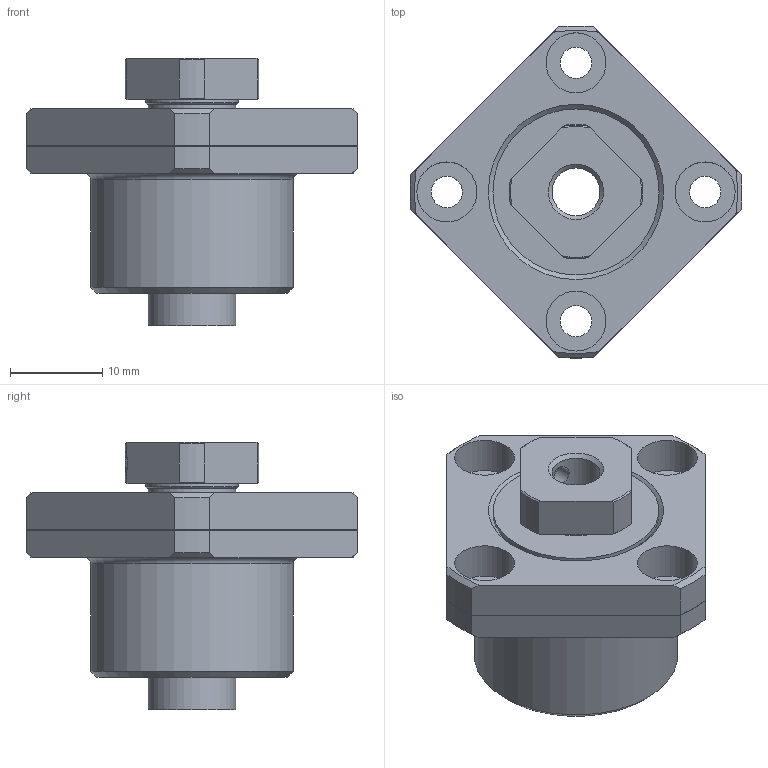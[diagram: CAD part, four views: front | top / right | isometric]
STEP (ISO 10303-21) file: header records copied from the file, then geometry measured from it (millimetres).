
FILE_DESCRIPTION(/* description */ ('STEP AP214'),/* implementation_level */ '2;1');
FILE_NAME(/* name */ 'FK6______CAD_NO_Yes-FS',/* time_stamp */ '2026-09-17T13:18:51+02:00',/* author */ ('License CC BY-ND 4.0'),/* organization */ ('CADENAS'),/* preprocessor_version */ 'ST-DEVELOPER v20',/* originating_system */ 'PARTsolutions',/* authorisation */ ' ');
FILE_SCHEMA (('AUTOMOTIVE_DESIGN {1 0 10303 214 3 1 1}'));
Length unit declared in the file: millimetre
Products named in the file (4): FK6______CAD_NO_Yes-FS; FK 6-FS-1; FK 6collar; RN 6
Assembly tree (4 placements, depth 2):
  FK6______CAD_NO_Yes-FS
    FK 6-FS-1
    FK 6collar  x2
    RN 6
Bounding box: 35.98 x 35.98 x 29 mm (x, y, z)
Volume: 9813.6 mm3; surface area: 5405.3 mm2
Topology: 4 solids, 4 shells, 108 faces, 250 edges, 164 vertices
Faces by surface type: plane 45, cylinder 39, cone 23, torus 1
Full cylindrical faces by diameter (mm): 2.459 x1, 3 x1, 3.4 x4, 5.188 x1, 6 x3, 6.5 x4, 9.5 x4, 10 x1, 18 x2, 22 x1
Entity records: 3033 total; most frequent: CARTESIAN_POINT 598, DIRECTION 494, ORIENTED_EDGE 430, EDGE_CURVE 215, AXIS2_PLACEMENT_3D 205, EDGE_LOOP 160, FACE_BOUND 160, VERTEX_POINT 159
